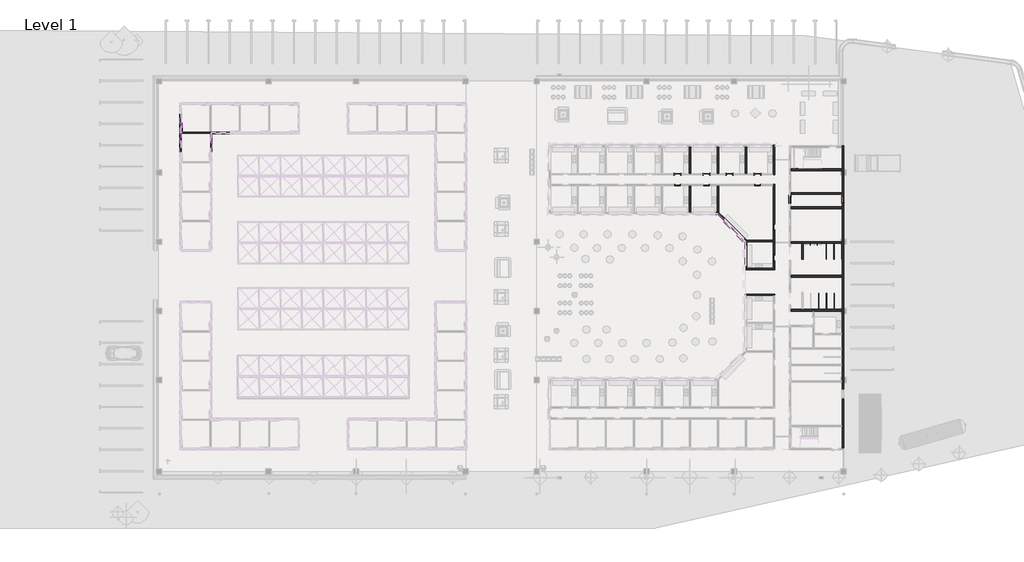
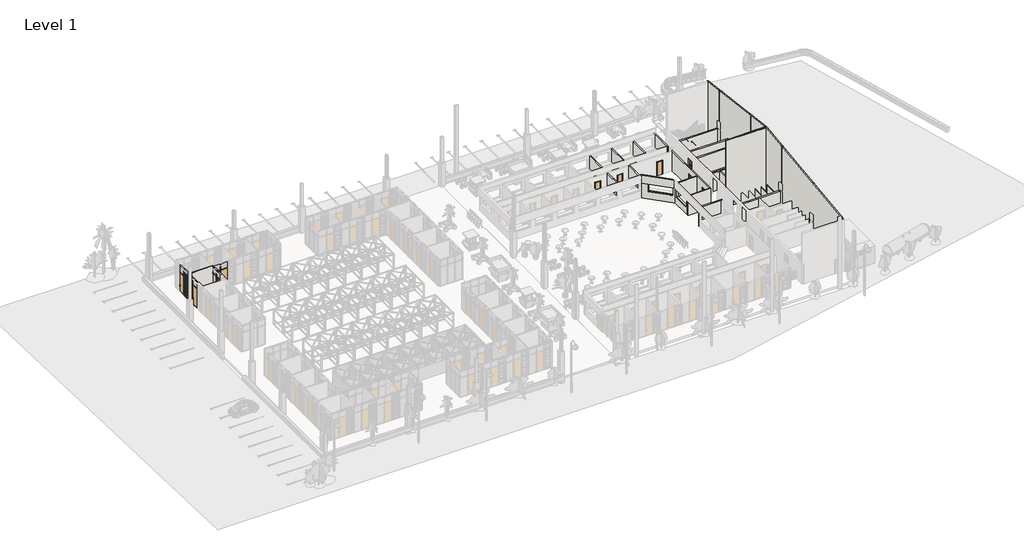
# One storey, part 13 of 32: 30 walls, 28 members, 15 doors, 12 plates.
"""IFC4 building model written with IfcOpenShell, lengths in millimetres."""

from ifc_helpers import new_model, si_unit, frame, origin, place, context, project, spatial, polyline, outline, extrude, faceted_brep, transform, mapped, element, save
from components import curtain_wall_door_single_glass_nz_curtain_wall_door_single_2bf20aac, curtain_wall_door_single_glass_nz_curtain_wall_door_single_ff8afd41, doors_intsgl_1_760x2110mm_a62a0124, doors_intsgl_1_760x2110mm_b66d165a, ext_single_out_aluminum_grooved_nz_860_x_2000_eb449b41, ext_single_out_aluminum_grooved_nz_910_x_2030_b83aaf34, rectangular_mullion_50x150mm_c4504768, rectangular_mullion_50x150mm_6c7cb899, rectangular_mullion_50x150mm_b0af8bb0, rectangular_mullion_50x150mm_bbc1c4ea, rectangular_mullion_50x150mm_1a36453b, rectangular_mullion_50x150mm_ef3a484d, rectangular_mullion_50x150mm_593aaa1e, rectangular_mullion_50x150mm_0d540e17, rectangular_mullion_50x150mm_108cdc6f, rectangular_mullion_50x150mm_06f351d1, rectangular_mullion_50x150mm_d9cea391, curtain_wall_panel_louver_20805_curtain_wall_panel_louver_14332c5b, curtain_wall_panel_glass_louver_20805_curtain_wall_panel_0f8e40a1, system_panel_glazed_2ffedfca, system_panel_glazed_53fe5bbb, system_panel_glazed_ac5b5eb3, system_panel_solid_585523e5, system_panel_solid_9660e4da, system_panel_solid_10c0fb46, system_panel_solid_8be1541b

model = new_model("IFC4")

# Units and contexts
model_context = context("Model", 3, world=origin())
ifc_project = project(units=[si_unit("LENGTHUNIT", "METRE", prefix="MILLI")], contexts=[model_context])

# Site, building, storey
site = spatial("IfcSite", under=ifc_project)
building = spatial("IfcBuilding", under=site)
storey = spatial("IfcBuildingStorey", under=building, Name="Level 1", Elevation=2800.0)

# Doors
placement = place(None, origin())
curtain_wall_door_single_glass_nz_curtain_wall_door_single_shape = curtain_wall_door_single_glass_nz_curtain_wall_door_single_2bf20aac(model_context)
element("IfcDoor", 1, ObjectType="Curtain Wall Door-Single-Glass (NZ) : Curtain Wall Door-Single-Glass (NZ)", at=placement, inside=storey, context=model_context, shape_type="MappedRepresentation", body=[
    mapped(curtain_wall_door_single_glass_nz_curtain_wall_door_single_shape, transform((-83784.8408447, 544.0800404, 2850.0), x_axis=(0.0, -1.0, 0.0), y_axis=(1.0, 0.0, 0.0), z_axis=(0.0, 0.0, 1.0))),
])
curtain_wall_door_single_glass_nz_curtain_wall_door_single_2_shape = curtain_wall_door_single_glass_nz_curtain_wall_door_single_ff8afd41(model_context)
element("IfcDoor", 2, ObjectType="Curtain Wall Door-Single-Glass (NZ) : Curtain Wall Door-Single-Glass (NZ)", at=placement, inside=storey, context=model_context, shape_type="MappedRepresentation", body=[
    mapped(curtain_wall_door_single_glass_nz_curtain_wall_door_single_2_shape, transform((-82160.3408448, 2194.0800404, 2850.0), x_axis=(1.0, 0.0, 0.0), y_axis=(0.0, 1.0, 0.0), z_axis=(0.0, 0.0, 1.0))),
])
element("IfcDoor", 3, ObjectType="Curtain Wall Door-Single-Glass (NZ) : Curtain Wall Door-Single-Glass (NZ)", at=placement, inside=storey, context=model_context, shape_type="MappedRepresentation", body=[
    mapped(curtain_wall_door_single_glass_nz_curtain_wall_door_single_2_shape, transform((-87234.8408447, 544.0800404, 2850.0), x_axis=(0.0, -1.0, 0.0), y_axis=(1.0, 0.0, 0.0), z_axis=(0.0, 0.0, 1.0))),
])
element("IfcDoor", 4, ObjectType="Curtain Wall Door-Single-Glass (NZ) : Curtain Wall Door-Single-Glass (NZ)", at=placement, inside=storey, context=model_context, shape_type="MappedRepresentation", body=[
    mapped(curtain_wall_door_single_glass_nz_curtain_wall_door_single_2_shape, transform((-87234.8408447, 3844.0800404, 2850.0), x_axis=(0.0, -1.0, 0.0), y_axis=(1.0, 0.0, 0.0), z_axis=(0.0, 0.0, 1.0))),
])
doors_intsgl_1_760x2110mm_shape = doors_intsgl_1_760x2110mm_a62a0124(model_context)
element("IfcDoor", 5, ObjectType="Doors_IntSgl_1 : 760x2110mm", at=placement, inside=storey, context=model_context, shape_type="MappedRepresentation", body=[
    mapped(doors_intsgl_1_760x2110mm_shape, transform((-28195.9339353, -2455.9199596, 2800.0), x_axis=(1.0, 0.0, 0.0), y_axis=(0.0, 1.0, 0.0), z_axis=(0.0, 0.0, 1.0))),
])
element("IfcDoor", 6, ObjectType="Doors_IntSgl_1 : 760x2110mm", at=placement, inside=storey, context=model_context, shape_type="MappedRepresentation", body=[
    mapped(doors_intsgl_1_760x2110mm_shape, transform((-22450.9339353, -3655.9199596, 2800.0), x_axis=(-1.0, 0.0, 0.0), y_axis=(0.0, -1.0, 0.0), z_axis=(0.0, 0.0, 1.0))),
])
element("IfcDoor", 7, ObjectType="Doors_IntSgl_1 : 760x2110mm", at=placement, inside=storey, context=model_context, shape_type="MappedRepresentation", body=[
    mapped(doors_intsgl_1_760x2110mm_shape, transform((-31420.9339353, -2455.9199596, 2800.0), x_axis=(1.0, 0.0, 0.0), y_axis=(0.0, 1.0, 0.0), z_axis=(0.0, 0.0, 1.0))),
])
doors_intsgl_1_760x2110mm_2_shape = doors_intsgl_1_760x2110mm_b66d165a(model_context)
element("IfcDoor", 8, ObjectType="Doors_IntSgl_1 : 760x2110mm", at=placement, inside=storey, context=model_context, shape_type="MappedRepresentation", body=[
    mapped(doors_intsgl_1_760x2110mm_2_shape, transform((-25590.9339353, -2455.9199596, 2800.0), x_axis=(-1.0, 0.0, 0.0), y_axis=(0.0, -1.0, 0.0), z_axis=(0.0, 0.0, 1.0))),
])
element("IfcDoor", 9, ObjectType="Doors_IntSgl_1 : 760x2110mm", at=placement, inside=storey, context=model_context, shape_type="MappedRepresentation", body=[
    mapped(doors_intsgl_1_760x2110mm_2_shape, transform((-20585.9339353, -8390.9199596, 2800.0), x_axis=(0.0, -1.0, 0.0), y_axis=(1.0, 0.0, 0.0), z_axis=(0.0, 0.0, 1.0))),
])
element("IfcDoor", 10, ObjectType="Doors_IntSgl_1 : 760x2110mm", at=placement, inside=storey, context=model_context, shape_type="MappedRepresentation", body=[
    mapped(doors_intsgl_1_760x2110mm_2_shape, transform((-28195.9339353, -3655.9199596, 2800.0), x_axis=(1.0, 0.0, 0.0), y_axis=(0.0, 1.0, 0.0), z_axis=(0.0, 0.0, 1.0))),
])
element("IfcDoor", 11, ObjectType="Doors_IntSgl_1 : 760x2110mm", at=placement, inside=storey, context=model_context, shape_type="MappedRepresentation", body=[
    mapped(doors_intsgl_1_760x2110mm_2_shape, transform((-31420.9339353, -3655.9199596, 2800.0), x_axis=(1.0, 0.0, 0.0), y_axis=(0.0, 1.0, 0.0), z_axis=(0.0, 0.0, 1.0))),
])
element("IfcDoor", 12, ObjectType="Doors_IntSgl_1 : 760x2110mm", at=placement, inside=storey, context=model_context, shape_type="MappedRepresentation", body=[
    mapped(doors_intsgl_1_760x2110mm_2_shape, transform((-22440.9339353, -2455.9199596, 2800.0), x_axis=(-1.0, 0.0, 0.0), y_axis=(0.0, -1.0, 0.0), z_axis=(0.0, 0.0, 1.0))),
])
element("IfcDoor", 13, ObjectType="Doors_IntSgl_1 : 760x2110mm", at=placement, inside=storey, context=model_context, shape_type="MappedRepresentation", body=[
    mapped(doors_intsgl_1_760x2110mm_2_shape, transform((-20585.9339353, -11840.9199596, 2800.0), x_axis=(0.0, -1.0, 0.0), y_axis=(1.0, 0.0, 0.0), z_axis=(0.0, 0.0, 1.0))),
])
ext_single_out_aluminum_grooved_nz_860_x_2000_shape = ext_single_out_aluminum_grooved_nz_860_x_2000_eb449b41(model_context)
element("IfcDoor", 14, ObjectType="Ext Single Out-Aluminum-Grooved (NZ) : 860 x 2000", at=placement, inside=storey, context=model_context, shape_type="MappedRepresentation", body=[
    mapped(ext_single_out_aluminum_grooved_nz_860_x_2000_shape, transform((-12860.7705062, -5221.9199596, 2780.0), x_axis=(0.0, 1.0, 0.0), y_axis=(-1.0, 0.0, 0.0), z_axis=(0.0, 0.0, 1.0))),
])
ext_single_out_aluminum_grooved_nz_910_x_2030_shape = ext_single_out_aluminum_grooved_nz_910_x_2030_b83aaf34(model_context)
element("IfcDoor", 15, ObjectType="Ext Single Out-Aluminum-Grooved (NZ) : 910 x 2030", at=placement, inside=storey, context=model_context, shape_type="MappedRepresentation", body=[
    mapped(ext_single_out_aluminum_grooved_nz_910_x_2030_shape, transform((-18810.7705062, -5324.9199596, 2780.0), x_axis=(0.0, -1.0, 0.0), y_axis=(1.0, 0.0, 0.0), z_axis=(0.0, 0.0, 1.0))),
])

# Members
rectangular_mullion_50x150mm_shape = rectangular_mullion_50x150mm_c4504768(model_context)
element("IfcMember", 16, ObjectType="Rectangular Mullion : 50x150mm", at=placement, inside=storey, context=model_context, shape_type="MappedRepresentation", body=[
    mapped(rectangular_mullion_50x150mm_shape, transform((-83784.8408447, 19.0800404, 5800.0), x_axis=(0.0, 0.0, 1.0), y_axis=(-1.0, 0.0, 0.0), z_axis=(0.0, -1.0, 0.0))),
])
rectangular_mullion_50x150mm_2_shape = rectangular_mullion_50x150mm_6c7cb899(model_context)
element("IfcMember", 17, ObjectType="Rectangular Mullion : 50x150mm", at=placement, inside=storey, context=model_context, shape_type="MappedRepresentation", body=[
    mapped(rectangular_mullion_50x150mm_2_shape, transform((-83784.8408447, 1094.0800404, 2800.0), x_axis=(0.0, -1.0, 0.0), y_axis=(-1.0, 0.0, 0.0), z_axis=(0.0, 0.0, -1.0))),
])
rectangular_mullion_50x150mm_3_shape = rectangular_mullion_50x150mm_b0af8bb0(model_context)
element("IfcMember", 18, ObjectType="Rectangular Mullion : 50x150mm", at=placement, inside=storey, context=model_context, shape_type="MappedRepresentation", body=[
    mapped(rectangular_mullion_50x150mm_3_shape, transform((-83784.8408447, 1069.0800404, 2800.0), x_axis=(0.0, 0.0, -1.0), y_axis=(-1.0, 0.0, 0.0), z_axis=(0.0, 1.0, 0.0))),
])
rectangular_mullion_50x150mm_4_shape = rectangular_mullion_50x150mm_bbc1c4ea(model_context)
element("IfcMember", 19, ObjectType="Rectangular Mullion : 50x150mm", at=placement, inside=storey, context=model_context, shape_type="MappedRepresentation", body=[
    mapped(rectangular_mullion_50x150mm_4_shape, transform((-83784.8408447, 1094.0800404, 5800.0), x_axis=(0.0, -1.0, 0.0), y_axis=(-1.0, 0.0, 0.0), z_axis=(0.0, 0.0, -1.0))),
])
rectangular_mullion_50x150mm_5_shape = rectangular_mullion_50x150mm_1a36453b(model_context)
element("IfcMember", 20, ObjectType="Rectangular Mullion : 50x150mm", at=placement, inside=storey, context=model_context, shape_type="MappedRepresentation", body=[
    mapped(rectangular_mullion_50x150mm_5_shape, transform((-83784.8408447, 19.0800404, 6800.0), x_axis=(0.0, 0.0, 1.0), y_axis=(-1.0, 0.0, 0.0), z_axis=(0.0, -1.0, 0.0))),
])
rectangular_mullion_50x150mm_6_shape = rectangular_mullion_50x150mm_ef3a484d(model_context)
element("IfcMember", 21, ObjectType="Rectangular Mullion : 50x150mm", at=placement, inside=storey, context=model_context, shape_type="MappedRepresentation", body=[
    mapped(rectangular_mullion_50x150mm_6_shape, transform((-83784.8408447, 1119.0800404, 5800.0), x_axis=(0.0, 0.0, 1.0), y_axis=(-1.0, 0.0, 0.0), z_axis=(0.0, -1.0, 0.0))),
])
rectangular_mullion_50x150mm_7_shape = rectangular_mullion_50x150mm_593aaa1e(model_context)
element("IfcMember", 22, ObjectType="Rectangular Mullion : 50x150mm", at=placement, inside=storey, context=model_context, shape_type="MappedRepresentation", body=[
    mapped(rectangular_mullion_50x150mm_7_shape, transform((-83784.8408447, 2194.0800404, 2800.0), x_axis=(0.0, 0.0, -1.0), y_axis=(-1.0, 0.0, 0.0), z_axis=(0.0, 1.0, 0.0))),
])
element("IfcMember", 23, ObjectType="Rectangular Mullion : 50x150mm", at=placement, inside=storey, context=model_context, shape_type="MappedRepresentation", body=[
    mapped(rectangular_mullion_50x150mm_7_shape, transform((-83784.8408447, 1119.0800404, 6800.0), x_axis=(0.0, 0.0, 1.0), y_axis=(-1.0, 0.0, 0.0), z_axis=(0.0, -1.0, 0.0))),
])
element("IfcMember", 24, ObjectType="Rectangular Mullion : 50x150mm", at=placement, inside=storey, context=model_context, shape_type="MappedRepresentation", body=[
    mapped(rectangular_mullion_50x150mm_4_shape, transform((-87234.8408447, 1094.0800404, 5800.0), x_axis=(0.0, -1.0, 0.0), y_axis=(-1.0, 0.0, 0.0), z_axis=(0.0, 0.0, -1.0))),
])
element("IfcMember", 25, ObjectType="Rectangular Mullion : 50x150mm", at=placement, inside=storey, context=model_context, shape_type="MappedRepresentation", body=[
    mapped(rectangular_mullion_50x150mm_2_shape, transform((-87234.8408447, 1094.0800404, 2800.0), x_axis=(0.0, -1.0, 0.0), y_axis=(-1.0, 0.0, 0.0), z_axis=(0.0, 0.0, -1.0))),
])
rectangular_mullion_50x150mm_8_shape = rectangular_mullion_50x150mm_0d540e17(model_context)
element("IfcMember", 26, ObjectType="Rectangular Mullion : 50x150mm", at=placement, inside=storey, context=model_context, shape_type="MappedRepresentation", body=[
    mapped(rectangular_mullion_50x150mm_8_shape, transform((-87234.8408447, 19.0800404, 5800.0), x_axis=(0.0, 0.0, 1.0), y_axis=(-1.0, 0.0, 0.0), z_axis=(0.0, -1.0, 0.0))),
])
rectangular_mullion_50x150mm_9_shape = rectangular_mullion_50x150mm_108cdc6f(model_context)
element("IfcMember", 27, ObjectType="Rectangular Mullion : 50x150mm", at=placement, inside=storey, context=model_context, shape_type="MappedRepresentation", body=[
    mapped(rectangular_mullion_50x150mm_9_shape, transform((-82685.3408448, 2194.0800404, 2800.0), x_axis=(0.0, 0.0, -1.0), y_axis=(0.0, -1.0, 0.0), z_axis=(-1.0, 0.0, 0.0))),
])
element("IfcMember", 28, ObjectType="Rectangular Mullion : 50x150mm", at=placement, inside=storey, context=model_context, shape_type="MappedRepresentation", body=[
    mapped(rectangular_mullion_50x150mm_9_shape, transform((-87234.8408447, 1069.0800404, 2800.0), x_axis=(0.0, 0.0, -1.0), y_axis=(-1.0, 0.0, 0.0), z_axis=(0.0, 1.0, 0.0))),
])
element("IfcMember", 29, ObjectType="Rectangular Mullion : 50x150mm", at=placement, inside=storey, context=model_context, shape_type="MappedRepresentation", body=[
    mapped(rectangular_mullion_50x150mm_5_shape, transform((-87234.8408447, 19.0800404, 6800.0), x_axis=(0.0, 0.0, 1.0), y_axis=(-1.0, 0.0, 0.0), z_axis=(0.0, -1.0, 0.0))),
])
element("IfcMember", 30, ObjectType="Rectangular Mullion : 50x150mm", at=placement, inside=storey, context=model_context, shape_type="MappedRepresentation", body=[
    mapped(rectangular_mullion_50x150mm_5_shape, transform((-87234.8408447, 1119.0800404, 6800.0), x_axis=(0.0, 0.0, 1.0), y_axis=(-1.0, 0.0, 0.0), z_axis=(0.0, -1.0, 0.0))),
])
element("IfcMember", 31, ObjectType="Rectangular Mullion : 50x150mm", at=placement, inside=storey, context=model_context, shape_type="MappedRepresentation", body=[
    mapped(rectangular_mullion_50x150mm_9_shape, transform((-87234.8408447, 3269.0800404, 2800.0), x_axis=(0.0, 0.0, -1.0), y_axis=(-1.0, 0.0, 0.0), z_axis=(0.0, 1.0, 0.0))),
])
element("IfcMember", 32, ObjectType="Rectangular Mullion : 50x150mm", at=placement, inside=storey, context=model_context, shape_type="MappedRepresentation", body=[
    mapped(rectangular_mullion_50x150mm_9_shape, transform((-87234.8408447, 2169.0800404, 2800.0), x_axis=(0.0, 0.0, -1.0), y_axis=(-1.0, 0.0, 0.0), z_axis=(0.0, 1.0, 0.0))),
])
element("IfcMember", 33, ObjectType="Rectangular Mullion : 50x150mm", at=placement, inside=storey, context=model_context, shape_type="MappedRepresentation", body=[
    mapped(rectangular_mullion_50x150mm_5_shape, transform((-87234.8408447, 3319.0800404, 6800.0), x_axis=(0.0, 0.0, 1.0), y_axis=(-1.0, 0.0, 0.0), z_axis=(0.0, -1.0, 0.0))),
])
element("IfcMember", 34, ObjectType="Rectangular Mullion : 50x150mm", at=placement, inside=storey, context=model_context, shape_type="MappedRepresentation", body=[
    mapped(rectangular_mullion_50x150mm_5_shape, transform((-87234.8408447, 2219.0800404, 6800.0), x_axis=(0.0, 0.0, 1.0), y_axis=(-1.0, 0.0, 0.0), z_axis=(0.0, -1.0, 0.0))),
])
rectangular_mullion_50x150mm_10_shape = rectangular_mullion_50x150mm_06f351d1(model_context)
element("IfcMember", 35, ObjectType="Rectangular Mullion : 50x150mm", at=placement, inside=storey, context=model_context, shape_type="MappedRepresentation", body=[
    mapped(rectangular_mullion_50x150mm_10_shape, transform((-82735.3408448, 2194.0800404, 5800.0), x_axis=(0.0, 0.0, 1.0), y_axis=(0.0, -1.0, 0.0), z_axis=(1.0, 0.0, 0.0))),
])
rectangular_mullion_50x150mm_11_shape = rectangular_mullion_50x150mm_d9cea391(model_context)
element("IfcMember", 36, ObjectType="Rectangular Mullion : 50x150mm", at=placement, inside=storey, context=model_context, shape_type="MappedRepresentation", body=[
    mapped(rectangular_mullion_50x150mm_11_shape, transform((-83797.3408447, 2194.0800404, 2800.0), x_axis=(0.0, 0.0, -1.0), y_axis=(0.0, -1.0, 0.0), z_axis=(-1.0, 0.0, 0.0))),
])
element("IfcMember", 37, ObjectType="Rectangular Mullion : 50x150mm", at=placement, inside=storey, context=model_context, shape_type="MappedRepresentation", body=[
    mapped(rectangular_mullion_50x150mm_4_shape, transform((-87234.8408447, 2194.0800404, 5800.0), x_axis=(0.0, -1.0, 0.0), y_axis=(-1.0, 0.0, 0.0), z_axis=(0.0, 0.0, -1.0))),
])
element("IfcMember", 38, ObjectType="Rectangular Mullion : 50x150mm", at=placement, inside=storey, context=model_context, shape_type="MappedRepresentation", body=[
    mapped(rectangular_mullion_50x150mm_4_shape, transform((-87234.8408447, 3294.0800404, 5800.0), x_axis=(0.0, -1.0, 0.0), y_axis=(-1.0, 0.0, 0.0), z_axis=(0.0, 0.0, -1.0))),
])
element("IfcMember", 39, ObjectType="Rectangular Mullion : 50x150mm", at=placement, inside=storey, context=model_context, shape_type="MappedRepresentation", body=[
    mapped(rectangular_mullion_50x150mm_2_shape, transform((-87234.8408447, 2194.0800404, 2800.0), x_axis=(0.0, -1.0, 0.0), y_axis=(-1.0, 0.0, 0.0), z_axis=(0.0, 0.0, -1.0))),
])
element("IfcMember", 40, ObjectType="Rectangular Mullion : 50x150mm", at=placement, inside=storey, context=model_context, shape_type="MappedRepresentation", body=[
    mapped(rectangular_mullion_50x150mm_2_shape, transform((-87234.8408447, 3294.0800404, 2800.0), x_axis=(0.0, -1.0, 0.0), y_axis=(-1.0, 0.0, 0.0), z_axis=(0.0, 0.0, -1.0))),
])
element("IfcMember", 41, ObjectType="Rectangular Mullion : 50x150mm", at=placement, inside=storey, context=model_context, shape_type="MappedRepresentation", body=[
    mapped(rectangular_mullion_50x150mm_8_shape, transform((-87234.8408447, 3319.0800404, 5800.0), x_axis=(0.0, 0.0, 1.0), y_axis=(-1.0, 0.0, 0.0), z_axis=(0.0, -1.0, 0.0))),
])
element("IfcMember", 42, ObjectType="Rectangular Mullion : 50x150mm", at=placement, inside=storey, context=model_context, shape_type="MappedRepresentation", body=[
    mapped(rectangular_mullion_50x150mm_8_shape, transform((-87234.8408447, 2219.0800404, 5800.0), x_axis=(0.0, 0.0, 1.0), y_axis=(-1.0, 0.0, 0.0), z_axis=(0.0, -1.0, 0.0))),
])
element("IfcMember", 43, ObjectType="Rectangular Mullion : 50x150mm", at=placement, inside=storey, context=model_context, shape_type="MappedRepresentation", body=[
    mapped(rectangular_mullion_50x150mm_8_shape, transform((-87234.8408447, 1119.0800404, 5800.0), x_axis=(0.0, 0.0, 1.0), y_axis=(-1.0, 0.0, 0.0), z_axis=(0.0, -1.0, 0.0))),
])

# Plates
curtain_wall_panel_louver_20805_curtain_wall_panel_louver_shape = curtain_wall_panel_louver_20805_curtain_wall_panel_louver_14332c5b(model_context)
element("IfcPlate", 44, ObjectType="Curtain_wall_panel_-_Louver_20805 : Curtain_wall_panel_-_Louver_20805", at=placement, inside=storey, context=model_context, shape_type="MappedRepresentation", body=[
    mapped(curtain_wall_panel_louver_20805_curtain_wall_panel_louver_shape, transform((-87234.8408447, 2744.0800404, 5825.0), x_axis=(0.0, -1.0, 0.0), y_axis=(1.0, 0.0, 0.0), z_axis=(0.0, 0.0, 1.0))),
])
curtain_wall_panel_glass_louver_20805_curtain_wall_panel_shape = curtain_wall_panel_glass_louver_20805_curtain_wall_panel_0f8e40a1(model_context)
element("IfcPlate", 45, ObjectType="Curtain_wall_panel_glass_Louver_20805 : Curtain_wall_panel_glass_Louver_20805", at=placement, inside=storey, context=model_context, shape_type="MappedRepresentation", body=[
    mapped(curtain_wall_panel_glass_louver_20805_curtain_wall_panel_shape, transform((-87234.8408447, 2744.0800404, 2850.0), x_axis=(0.0, -1.0, 0.0), y_axis=(1.0, 0.0, 0.0), z_axis=(0.0, 0.0, 1.0))),
])
system_panel_glazed_shape = system_panel_glazed_2ffedfca(model_context)
element("IfcPlate", 46, ObjectType="System Panel : Glazed", at=placement, inside=storey, context=model_context, shape_type="MappedRepresentation", body=[
    mapped(system_panel_glazed_shape, transform((-83784.8408447, 1656.5800404, 2850.0), x_axis=(0.0, -1.0, 0.0), y_axis=(1.0, 0.0, 0.0), z_axis=(0.0, 0.0, 1.0))),
])
system_panel_glazed_2_shape = system_panel_glazed_53fe5bbb(model_context)
element("IfcPlate", 47, ObjectType="System Panel : Glazed", at=placement, inside=storey, context=model_context, shape_type="MappedRepresentation", body=[
    mapped(system_panel_glazed_2_shape, transform((-87234.8408447, 1644.0800404, 2850.0), x_axis=(0.0, -1.0, 0.0), y_axis=(1.0, 0.0, 0.0), z_axis=(0.0, 0.0, 1.0))),
])
system_panel_glazed_3_shape = system_panel_glazed_ac5b5eb3(model_context)
element("IfcPlate", 48, ObjectType="System Panel : Glazed", at=placement, inside=storey, context=model_context, shape_type="MappedRepresentation", body=[
    mapped(system_panel_glazed_3_shape, transform((-83266.3408448, 2194.0800404, 2850.0), x_axis=(1.0, 0.0, 0.0), y_axis=(0.0, 1.0, 0.0), z_axis=(0.0, 0.0, 1.0))),
])
system_panel_solid_shape = system_panel_solid_585523e5(model_context)
element("IfcPlate", 49, ObjectType="System Panel : Solid", at=placement, inside=storey, context=model_context, shape_type="MappedRepresentation", body=[
    mapped(system_panel_solid_shape, transform((-83784.8408447, 544.0800404, 5825.0), x_axis=(0.0, -1.0, 0.0), y_axis=(1.0, 0.0, 0.0), z_axis=(0.0, 0.0, 1.0))),
])
system_panel_solid_2_shape = system_panel_solid_9660e4da(model_context)
element("IfcPlate", 50, ObjectType="System Panel : Solid", at=placement, inside=storey, context=model_context, shape_type="MappedRepresentation", body=[
    mapped(system_panel_solid_2_shape, transform((-83784.8408447, 1656.5800404, 5825.0), x_axis=(0.0, -1.0, 0.0), y_axis=(1.0, 0.0, 0.0), z_axis=(0.0, 0.0, 1.0))),
])
system_panel_solid_3_shape = system_panel_solid_10c0fb46(model_context)
element("IfcPlate", 51, ObjectType="System Panel : Solid", at=placement, inside=storey, context=model_context, shape_type="MappedRepresentation", body=[
    mapped(system_panel_solid_3_shape, transform((-82160.3408448, 2194.0800404, 5825.0), x_axis=(1.0, 0.0, 0.0), y_axis=(0.0, 1.0, 0.0), z_axis=(0.0, 0.0, 1.0))),
])
element("IfcPlate", 52, ObjectType="System Panel : Solid", at=placement, inside=storey, context=model_context, shape_type="MappedRepresentation", body=[
    mapped(system_panel_solid_3_shape, transform((-87234.8408447, 544.0800404, 5825.0), x_axis=(0.0, -1.0, 0.0), y_axis=(1.0, 0.0, 0.0), z_axis=(0.0, 0.0, 1.0))),
])
element("IfcPlate", 53, ObjectType="System Panel : Solid", at=placement, inside=storey, context=model_context, shape_type="MappedRepresentation", body=[
    mapped(system_panel_solid_3_shape, transform((-87234.8408447, 3844.0800404, 5825.0), x_axis=(0.0, -1.0, 0.0), y_axis=(1.0, 0.0, 0.0), z_axis=(0.0, 0.0, 1.0))),
])
element("IfcPlate", 54, ObjectType="System Panel : Solid", at=placement, inside=storey, context=model_context, shape_type="MappedRepresentation", body=[
    mapped(system_panel_solid_3_shape, transform((-87234.8408447, 1644.0800404, 5825.0), x_axis=(0.0, -1.0, 0.0), y_axis=(1.0, 0.0, 0.0), z_axis=(0.0, 0.0, 1.0))),
])
system_panel_solid_4_shape = system_panel_solid_8be1541b(model_context)
element("IfcPlate", 55, ObjectType="System Panel : Solid", at=placement, inside=storey, context=model_context, shape_type="MappedRepresentation", body=[
    mapped(system_panel_solid_4_shape, transform((-83266.3408448, 2194.0800404, 5825.0), x_axis=(1.0, 0.0, 0.0), y_axis=(0.0, 1.0, 0.0), z_axis=(0.0, 0.0, 1.0))),
])

# Walls
element("IfcWall", 56, ObjectType="150cmu", at=placement, inside=storey, context=model_context, shape_type="Brep", body=[
    faceted_brep([(-20660.9339353, 794.0800404, 2800.0), (-20660.9339353, 594.0800404, 2800.0), (-20660.9339353, -2380.9199596, 2800.0), (-20660.9339353, -2530.9199596, 2800.0), (-20660.9339353, -2530.9199596, 5800.0), (-20660.9339353, -2380.9199596, 5800.0), (-20660.9339353, 594.0800404, 5800.0), (-20660.9339353, 794.0800404, 5800.0), (-20510.9339353, 794.0800404, 2800.0), (-20510.9339353, 794.0800404, 5800.0), (-20510.9339353, -2530.9199596, 5800.0), (-20510.9339353, -2530.9199596, 2800.0)], [[[0, 1, 2, 3, 4, 5, 6, 7]], [[8, 9, 10, 11]], [[3, 2, 1, 0, 8, 11]], [[7, 6, 5, 4, 10, 9]], [[4, 3, 11, 10]], [[0, 7, 9, 8]]]),
])
element("IfcWall", 57, ObjectType="150cmu", at=placement, inside=storey, context=model_context, shape_type="SweptSolid", body=[
    extrude(outline(polyline([(-23660.9339353, 594.0800404), (-23660.9339353, -2380.9199596), (-23810.9339353, -2380.9199596), (-23810.9339353, 594.0800404), (-23660.9339353, 594.0800404)])), frame((0.0, 0.0, 2800.0), z_axis=(0.0, 0.0, 1.0), x_axis=(1.0, 0.0, 0.0)), (0.0, 0.0, 1.0), 3000.0),
])
element("IfcWall", 58, ObjectType="150cmu", at=placement, inside=storey, context=model_context, shape_type="SweptSolid", body=[
    extrude(outline(polyline([(-26960.9339353, -2380.9199596), (-26960.9339353, 594.0800404), (-26810.9339353, 594.0800404), (-26810.9339353, -2380.9199596), (-26960.9339353, -2380.9199596)])), frame((0.0, 0.0, 2800.0), z_axis=(0.0, 0.0, 1.0), x_axis=(1.0, 0.0, 0.0)), (0.0, 0.0, 1.0), 3000.0),
])
element("IfcWall", 59, ObjectType="150cmu", at=placement, inside=storey, context=model_context, shape_type="SweptSolid", body=[
    extrude(outline(polyline([(-30110.9339353, -2380.9199596), (-30110.9339353, 594.0800404), (-29960.9339353, 594.0800404), (-29960.9339353, -2380.9199596), (-30110.9339353, -2380.9199596)])), frame((0.0, 0.0, 2800.0), z_axis=(0.0, 0.0, 1.0), x_axis=(1.0, 0.0, 0.0)), (0.0, 0.0, 1.0), 3000.0),
])
element("IfcWall", 60, ObjectType="150cmu", at=placement, inside=storey, context=model_context, shape_type="Brep", body=[
    faceted_brep([(-20510.9339353, -3580.9199596, 5800.0), (-20510.9339353, -13030.9199596, 5800.0), (-20510.9339353, -13030.9199596, 2800.0), (-20510.9339353, -12200.9199596, 2800.0), (-20510.9339353, -12200.9199596, 4910.0), (-20510.9339353, -11480.9199596, 4910.0), (-20510.9339353, -11480.9199596, 2800.0), (-20510.9339353, -8750.9199596, 2800.0), (-20510.9339353, -8750.9199596, 4910.0), (-20510.9339353, -8030.9199596, 4910.0), (-20510.9339353, -8030.9199596, 2800.0), (-20510.9339353, -3580.9199596, 2800.0), (-20660.9339353, -13030.9199596, 5800.0), (-20660.9339353, -10030.9199596, 5800.0), (-20660.9339353, -9880.9199596, 5800.0), (-20660.9339353, -3730.9199596, 5800.0), (-20660.9339353, -3580.9199596, 5800.0), (-20660.9339353, -3580.9199596, 2800.0), (-20660.9339353, -3730.9199596, 2800.0), (-20660.9339353, -8030.9199596, 2800.0), (-20660.9339353, -8030.9199596, 4910.0), (-20660.9339353, -8750.9199596, 4910.0), (-20660.9339353, -8750.9199596, 2800.0), (-20660.9339353, -9880.9199596, 2800.0), (-20660.9339353, -10030.9199596, 2800.0), (-20660.9339353, -11480.9199596, 2800.0), (-20660.9339353, -11480.9199596, 4910.0), (-20660.9339353, -12200.9199596, 4910.0), (-20660.9339353, -12200.9199596, 2800.0), (-20660.9339353, -13030.9199596, 2800.0)], [[[0, 1, 2, 3, 4, 5, 6, 7, 8, 9, 10, 11]], [[12, 13, 14, 15, 16, 17, 18, 19, 20, 21, 22, 23, 24, 25, 26, 27, 28, 29]], [[22, 7, 6, 25, 24, 23]], [[10, 19, 18, 17, 11]], [[2, 29, 28, 3]], [[1, 0, 16, 15, 14, 13, 12]], [[8, 7, 22, 21]], [[9, 8, 21, 20]], [[10, 9, 20, 19]], [[0, 11, 17, 16]], [[2, 1, 12, 29]], [[27, 4, 3, 28]], [[4, 27, 26, 5]], [[5, 26, 25, 6]]]),
])
element("IfcWall", 61, ObjectType="150cmu", at=placement, inside=storey, context=model_context, shape_type="SweptSolid", body=[
    extrude(outline(polyline([(-23669.512579, -9880.9199596), (-20660.9339353, -9880.9199596), (-20660.9339353, -10030.9199596), (-23635.9339353, -10030.9199596), (-23635.9339353, -9914.4986034), (-23669.512579, -9880.9199596)])), frame((0.0, 0.0, 2800.0), z_axis=(0.0, 0.0, 1.0), x_axis=(1.0, 0.0, 0.0)), (0.0, 0.0, 1.0), 3000.0),
])
element("IfcWall", 62, ObjectType="150cmu", at=placement, inside=storey, context=model_context, shape_type="SweptSolid", body=[
    extrude(outline(polyline([(-29960.9339353, -3730.9199596), (-29960.9339353, -6705.9199596), (-30110.9339353, -6705.9199596), (-30110.9339353, -3730.9199596), (-29960.9339353, -3730.9199596)])), frame((0.0, 0.0, 2800.0), z_axis=(0.0, 0.0, 1.0), x_axis=(1.0, 0.0, 0.0)), (0.0, 0.0, 1.0), 3000.0),
])
element("IfcWall", 63, ObjectType="150cmu", at=placement, inside=storey, context=model_context, shape_type="SweptSolid", body=[
    extrude(outline(polyline([(-26810.9339353, -3730.9199596), (-26810.9339353, -6739.4986034), (-26844.512579, -6705.9199596), (-26960.9339353, -6705.9199596), (-26960.9339353, -3730.9199596), (-26810.9339353, -3730.9199596)])), frame((0.0, 0.0, 2800.0), z_axis=(0.0, 0.0, 1.0), x_axis=(1.0, 0.0, 0.0)), (0.0, 0.0, 1.0), 3000.0),
])
element("IfcWall", 64, ObjectType="150cmu", at=placement, inside=storey, context=model_context, shape_type="Brep", body=[
    faceted_brep([(-20510.9339353, -15905.9199596, 2800.0), (-23835.9339353, -15905.9199596, 2800.0), (-23835.9339353, -15905.9199596, 5800.0), (-20510.9339353, -15905.9199596, 5800.0), (-20510.9339353, -16055.9199596, 2800.0), (-20510.9339353, -16055.9199596, 5800.0), (-20660.9339353, -16055.9199596, 5800.0), (-23635.9339353, -16055.9199596, 5800.0), (-23835.9339353, -16055.9199596, 5800.0), (-23835.9339353, -16055.9199596, 2800.0), (-23635.9339353, -16055.9199596, 2800.0), (-20660.9339353, -16055.9199596, 2800.0)], [[[0, 1, 2, 3]], [[4, 5, 6, 7, 8, 9, 10, 11]], [[1, 0, 4, 11, 10, 9]], [[3, 2, 8, 7, 6, 5]], [[0, 3, 5, 4]], [[2, 1, 9, 8]]]),
])
element("IfcWall", 65, ObjectType="150cmu", at=placement, inside=storey, context=model_context, shape_type="Brep", body=[
    faceted_brep([(-20510.9339353, -13030.9199596, 2800.0), (-20660.9339353, -13030.9199596, 2800.0), (-23635.9339353, -13030.9199596, 2800.0), (-23835.9339353, -13030.9199596, 2800.0), (-23835.9339353, -13030.9199596, 5800.0), (-23635.9339353, -13030.9199596, 5800.0), (-20660.9339353, -13030.9199596, 5800.0), (-20510.9339353, -13030.9199596, 5800.0), (-20510.9339353, -13180.9199596, 2800.0), (-20510.9339353, -13180.9199596, 5800.0), (-23835.9339353, -13180.9199596, 5800.0), (-23835.9339353, -13180.9199596, 2800.0)], [[[0, 1, 2, 3, 4, 5, 6, 7]], [[8, 9, 10, 11]], [[3, 2, 1, 0, 8, 11]], [[7, 6, 5, 4, 10, 9]], [[0, 7, 9, 8]], [[4, 3, 11, 10]]]),
])
element("IfcWall", 66, ObjectType="200cmu", at=placement, inside=storey, context=model_context, shape_type="Brep", body=[
    faceted_brep([(-12960.7705062, -33205.9199596, 2800.0), (-12960.7705062, -33205.9199596, 10619.2398583), (-12960.7705062, -14005.9199596, 12976.7034277), (-12960.7705062, -13905.9199596, 12988.9818838), (-12960.7705062, -13805.9199596, 12976.7034277), (-12960.7705062, 544.0800404, 11214.7449787), (-12960.7705062, 744.0800404, 11190.1880665), (-12960.7705062, 744.0800404, 2800.0), (-12960.7705062, 544.0800404, 2800.0), (-12960.7705062, -1856.3199596, 2800.0), (-12960.7705062, -2056.3199596, 2800.0), (-12960.7705062, -2565.9199596, 2800.0), (-12960.7705062, -4505.9199596, 2800.0), (-12960.7705062, -4705.9199596, 2800.0), (-12960.7705062, -4856.9199596, 2800.0), (-12960.7705062, -4856.9199596, 4800.0), (-12960.7705062, -5716.9199596, 4800.0), (-12960.7705062, -5716.9199596, 2800.0), (-12960.7705062, -6105.9199596, 2800.0), (-12960.7705062, -6305.9199596, 2800.0), (-12960.7705062, -9725.9199596, 2800.0), (-12960.7705062, -10005.9199596, 2800.0), (-12960.7705062, -10205.9199596, 2800.0), (-12960.7705062, -10325.9199596, 2800.0), (-12960.7705062, -13805.9199596, 2800.0), (-12960.7705062, -14005.9199596, 2800.0), (-12960.7705062, -17485.9199596, 2800.0), (-12960.7705062, -17605.9199596, 2800.0), (-12960.7705062, -17805.9199596, 2800.0), (-12960.7705062, -18085.9199596, 2800.0), (-12960.7705062, -20305.9199596, 2800.0), (-12960.7705062, -20455.9199596, 2800.0), (-12960.7705062, -21955.5199596, 2800.0), (-12960.7705062, -22105.5199596, 2800.0), (-12960.7705062, -23805.5199596, 2800.0), (-12960.7705062, -23955.5199596, 2800.0), (-12960.7705062, -25245.9199596, 2800.0), (-12960.7705062, -25655.5199596, 2800.0), (-12960.7705062, -25805.5199596, 2800.0), (-12960.7705062, -25845.9199596, 2800.0), (-12960.7705062, -26629.5199596, 2800.0), (-12960.7705062, -26629.5199596, 4856.0), (-12960.7705062, -27591.5199596, 4856.0), (-12960.7705062, -27591.5199596, 2800.0), (-12960.7705062, -30615.7565305, 2800.0), (-12960.7705062, -30815.7565305, 2800.0), (-12760.7705062, 744.0800404, 6800.0), (-12760.7705062, -1965.9199596, 6800.0), (-12760.7705062, -2565.9199596, 6800.0), (-12760.7705062, -9725.9199596, 6800.0), (-12760.7705062, -10325.9199596, 6800.0), (-12760.7705062, -17485.9199596, 6800.0), (-12760.7705062, -18085.9199596, 6800.0), (-12760.7705062, -25245.9199596, 6800.0), (-12760.7705062, -25845.9199596, 6800.0), (-12760.7705062, -33205.9199596, 6800.0), (-12760.7705062, -33205.9199596, 2800.0), (-12760.7705062, -27591.5199596, 2800.0), (-12760.7705062, -27591.5199596, 4856.0), (-12760.7705062, -26629.5199596, 4856.0), (-12760.7705062, -26629.5199596, 2800.0), (-12760.7705062, -25845.9199596, 2800.0), (-12760.7705062, -25245.9199596, 2800.0), (-12760.7705062, -18085.9199596, 2800.0), (-12760.7705062, -17485.9199596, 2800.0), (-12760.7705062, -10325.9199596, 2800.0), (-12760.7705062, -9725.9199596, 2800.0), (-12760.7705062, -5716.9199596, 2800.0), (-12760.7705062, -5716.9199596, 4800.0), (-12760.7705062, -4856.9199596, 4800.0), (-12760.7705062, -4856.9199596, 2800.0), (-12760.7705062, -2565.9199596, 2800.0), (-12760.7705062, -1965.9199596, 2800.0), (-12760.7705062, 744.0800404, 2800.0), (-12800.7705062, -33205.9199596, 6800.0), (-12800.7705062, -33205.9199596, 10619.2398583), (-12800.7705062, 744.0800404, 11190.1880665), (-12800.7705062, 744.0800404, 6800.0), (-12800.7705062, -13905.9199596, 12988.9818838)], [[[0, 1, 2, 3, 4, 5, 6, 7, 8, 9, 10, 11, 12, 13, 14, 15, 16, 17, 18, 19, 20, 21, 22, 23, 24, 25, 26, 27, 28, 29, 30, 31, 32, 33, 34, 35, 36, 37, 38, 39, 40, 41, 42, 43, 44, 45]], [[46, 47, 48, 49, 50, 51, 52, 53, 54, 55, 56, 57, 58, 59, 60, 61, 62, 63, 64, 65, 66, 67, 68, 69, 70, 71, 72, 73]], [[56, 0, 45, 44, 43, 57]], [[7, 73, 72, 71, 70, 14, 13, 12, 11, 10, 9, 8]], [[17, 67, 66, 65, 64, 63, 62, 61, 60, 40, 39, 38, 37, 36, 35, 34, 33, 32, 31, 30, 29, 28, 27, 26, 25, 24, 23, 22, 21, 20, 19, 18]], [[1, 0, 56, 55, 74, 75]], [[7, 6, 76, 77, 46, 73]], [[55, 54, 53, 52, 51, 50, 49, 48, 47, 46, 77, 74]], [[74, 77, 76, 78, 75]], [[76, 6, 5, 4, 3, 78]], [[1, 75, 78, 3, 2]], [[17, 16, 68, 67]], [[16, 15, 69, 68]], [[15, 14, 70, 69]], [[59, 41, 40, 60]], [[41, 59, 58, 42]], [[42, 58, 57, 43]]]),
])
element("IfcWall", 67, ObjectType="200cmu", at=placement, inside=storey, context=model_context, shape_type="Brep", body=[
    faceted_brep([(-12960.7705062, -17605.9199596, 2800.0), (-13100.7705062, -17605.9199596, 2800.0), (-17360.7705062, -17605.9199596, 2800.0), (-17510.7705062, -17605.9199596, 2800.0), (-18710.7705062, -17605.9199596, 2800.0), (-18710.7705062, -17605.9199596, 5589.0), (-17510.7705062, -17605.9199596, 5589.0), (-17360.7705062, -17605.9199596, 5589.0), (-13100.7705062, -17605.9199596, 5589.0), (-12960.7705062, -17605.9199596, 5589.0), (-12960.7705062, -17805.9199596, 2800.0), (-12960.7705062, -17805.9199596, 5589.0), (-13100.7705062, -17805.9199596, 5589.0), (-16075.9339353, -17805.9199596, 5589.0), (-16275.9339353, -17805.9199596, 5589.0), (-18710.7705062, -17805.9199596, 5589.0), (-18710.7705062, -17805.9199596, 2800.0), (-16275.9339353, -17805.9199596, 2800.0), (-16075.9339353, -17805.9199596, 2800.0), (-13100.7705062, -17805.9199596, 2800.0)], [[[0, 1, 2, 3, 4, 5, 6, 7, 8, 9]], [[10, 11, 12, 13, 14, 15, 16, 17, 18, 19]], [[4, 3, 2, 1, 0, 10, 19, 18, 17, 16]], [[5, 4, 16, 15]], [[0, 9, 11, 10]], [[9, 8, 7, 6, 5, 15, 14, 13, 12, 11]]]),
])
element("IfcWall", 68, ObjectType="200cmu", at=placement, inside=storey, context=model_context, shape_type="Brep", body=[
    faceted_brep([(-12960.7705062, -10005.9199596, 2800.0), (-13100.7705062, -10005.9199596, 2800.0), (-18710.7705062, -10005.9199596, 2800.0), (-18710.7705062, -10005.9199596, 5589.0), (-13100.7705062, -10005.9199596, 5589.0), (-12960.7705062, -10005.9199596, 5589.0), (-12960.7705062, -10205.9199596, 2800.0), (-12960.7705062, -10205.9199596, 5589.0), (-13100.7705062, -10205.9199596, 5589.0), (-17310.9339353, -10205.9199596, 5589.0), (-17510.9339353, -10205.9199596, 5589.0), (-18710.7705062, -10205.9199596, 5589.0), (-18710.7705062, -10205.9199596, 2800.0), (-17510.9339353, -10205.9199596, 2800.0), (-17310.9339353, -10205.9199596, 2800.0), (-13100.7705062, -10205.9199596, 2800.0)], [[[0, 1, 2, 3, 4, 5]], [[6, 7, 8, 9, 10, 11, 12, 13, 14, 15]], [[2, 1, 0, 6, 15, 14, 13, 12]], [[3, 2, 12, 11]], [[0, 5, 7, 6]], [[5, 4, 3, 11, 10, 9, 8, 7]]]),
])
element("IfcWall", 69, ObjectType="200cmu", at=placement, inside=storey, context=model_context, shape_type="Brep", body=[
    faceted_brep([(-12960.7705062, -13805.9199596, 2800.0), (-18710.7705062, -13805.9199596, 2800.0), (-18710.7705062, -13805.9199596, 12976.7034277), (-15160.7705062, -13805.9199596, 12976.7034277), (-14960.7705062, -13805.9199596, 12976.7034277), (-12960.7705062, -13805.9199596, 12976.7034277), (-12960.7705062, -14005.9199596, 2800.0), (-12960.7705062, -14005.9199596, 12976.7034277), (-14960.7705062, -14005.9199596, 12976.7034277), (-15160.7705062, -14005.9199596, 12976.7034277), (-18710.7705062, -14005.9199596, 12976.7034277), (-18710.7705062, -14005.9199596, 2800.0), (-18710.7705062, -13905.9199596, 12988.9818838), (-12960.7705062, -13905.9199596, 12988.9818838)], [[[0, 1, 2, 3, 4, 5]], [[6, 7, 8, 9, 10, 11]], [[1, 0, 6, 11]], [[2, 1, 11, 10, 12]], [[0, 5, 13, 7, 6]], [[5, 4, 3, 2, 12, 13]], [[12, 10, 9, 8, 7, 13]]]),
])
element("IfcWall", 70, ObjectType="200cmu", at=placement, inside=storey, context=model_context, shape_type="SweptSolid", body=[
    extrude(outline(polyline([(-17510.9339353, -11990.9199596), (-17510.9339353, -10205.9199596), (-17310.9339353, -10205.9199596), (-17310.9339353, -11990.9199596), (-17510.9339353, -11990.9199596)])), frame((0.0, 0.0, 2800.0), z_axis=(0.0, 0.0, 1.0), x_axis=(1.0, 0.0, 0.0)), (0.0, 0.0, 1.0), 2789.0),
])
element("IfcWall", 71, ObjectType="200cmu", at=placement, inside=storey, context=model_context, shape_type="SweptSolid", body=[
    extrude(outline(polyline([(-18710.7705062, -6105.9199596), (-12960.7705062, -6105.9199596), (-12960.7705062, -6305.9199596), (-18710.7705062, -6305.9199596), (-18710.7705062, -6105.9199596)])), frame((0.0, 0.0, 2800.0), z_axis=(0.0, 0.0, 1.0), x_axis=(1.0, 0.0, 0.0)), (0.0, 0.0, 1.0), 2789.0),
])
element("IfcWall", 72, ObjectType="200cmu", at=placement, inside=storey, context=model_context, shape_type="Brep", body=[
    faceted_brep([(-12960.7705062, -1856.3199596, 2800.0), (-18710.7705062, -1856.3199596, 2800.0), (-18710.7705062, -1856.3199596, 5589.0), (-15325.9339353, -1856.3199596, 5589.0), (-12960.7705062, -1856.3199596, 5589.0), (-12960.7705062, -2056.3199596, 2800.0), (-12960.7705062, -2056.3199596, 5589.0), (-13100.7705062, -2056.3199596, 5589.0), (-18710.7705062, -2056.3199596, 5589.0), (-18710.7705062, -2056.3199596, 2800.0), (-13100.7705062, -2056.3199596, 2800.0)], [[[0, 1, 2, 3, 4]], [[5, 6, 7, 8, 9, 10]], [[1, 0, 5, 10, 9]], [[2, 1, 9, 8]], [[0, 4, 6, 5]], [[4, 3, 2, 8, 7, 6]]]),
])
element("IfcWall", 73, ObjectType="200cmu", at=placement, inside=storey, context=model_context, shape_type="SweptSolid", body=[
    extrude(outline(polyline([(-18710.7705062, -4505.9199596), (-12960.7705062, -4505.9199596), (-12960.7705062, -4705.9199596), (-18710.7705062, -4705.9199596), (-18710.7705062, -4505.9199596)])), frame((0.0, 0.0, 2800.0), z_axis=(0.0, 0.0, 1.0), x_axis=(1.0, 0.0, 0.0)), (0.0, 0.0, 1.0), 2789.0),
])
element("IfcWall", 74, ObjectType="Generic - 200mm", at=placement, inside=storey, context=model_context, shape_type="Brep", body=[
    faceted_brep([(-27210.198004, -6905.9199596, 5200.0), (-27010.198004, -7105.9199596, 5200.0), (-24035.9339353, -10080.1840283, 5200.0), (-24035.9339353, -10080.1840283, 6400.0), (-27010.198004, -7105.9199596, 6400.0), (-27210.198004, -6905.9199596, 6400.0), (-26927.3552915, -6905.9199596, 5200.0), (-26927.3552915, -6905.9199596, 6400.0), (-24035.9339353, -9797.3413159, 6400.0), (-24035.9339353, -9797.3413159, 5200.0)], [[[0, 1, 2, 3, 4, 5]], [[6, 7, 8, 9]], [[2, 1, 0, 6, 9]], [[5, 4, 3, 8, 7]], [[3, 2, 9, 8]], [[0, 5, 7, 6]]]),
])
element("IfcWall", 75, ObjectType="WC Partition", at=placement, inside=storey, context=model_context, shape_type="SweptSolid", body=[
    extrude(outline(polyline([(-13810.7705062, -15805.9199596), (-13810.7705062, -17605.9199596), (-13840.7705062, -17605.9199596), (-13840.7705062, -15805.9199596), (-13810.7705062, -15805.9199596)])), frame((0.0, 0.0, 2800.0), z_axis=(0.0, 0.0, 1.0), x_axis=(1.0, 0.0, 0.0)), (0.0, 0.0, 1.0), 2789.0),
])
element("IfcWall", 76, ObjectType="WC Partition", at=placement, inside=storey, context=model_context, shape_type="SweptSolid", body=[
    extrude(outline(polyline([(-14690.7705062, -15805.9199596), (-14690.7705062, -17605.9199596), (-14720.7705062, -17605.9199596), (-14720.7705062, -15805.9199596), (-14690.7705062, -15805.9199596)])), frame((0.0, 0.0, 2800.0), z_axis=(0.0, 0.0, 1.0), x_axis=(1.0, 0.0, 0.0)), (0.0, 0.0, 1.0), 2789.0),
])
element("IfcWall", 77, ObjectType="WC Partition", at=placement, inside=storey, context=model_context, shape_type="SweptSolid", body=[
    extrude(outline(polyline([(-15570.7705062, -15805.9199596), (-15570.7705062, -17605.9199596), (-15600.7705062, -17605.9199596), (-15600.7705062, -15805.9199596), (-15570.7705062, -15805.9199596)])), frame((0.0, 0.0, 2800.0), z_axis=(0.0, 0.0, 1.0), x_axis=(1.0, 0.0, 0.0)), (0.0, 0.0, 1.0), 2789.0),
])
element("IfcWall", 78, ObjectType="WC Partition", at=placement, inside=storey, context=model_context, shape_type="SweptSolid", body=[
    extrude(outline(polyline([(-12990.7705062, -11975.9199596), (-12990.7705062, -10205.9199596), (-12960.7705062, -10205.9199596), (-12960.7705062, -11975.9199596), (-12990.7705062, -11975.9199596)])), frame((0.0, 0.0, 2800.0), z_axis=(0.0, 0.0, 1.0), x_axis=(1.0, 0.0, 0.0)), (0.0, 0.0, 1.0), 2789.0),
])
element("IfcWall", 79, ObjectType="WC Partition", at=placement, inside=storey, context=model_context, shape_type="SweptSolid", body=[
    extrude(outline(polyline([(-13870.7705062, -11975.9199596), (-13870.7705062, -10205.9199596), (-13840.7705062, -10205.9199596), (-13840.7705062, -11975.9199596), (-13870.7705062, -11975.9199596)])), frame((0.0, 0.0, 2800.0), z_axis=(0.0, 0.0, 1.0), x_axis=(1.0, 0.0, 0.0)), (0.0, 0.0, 1.0), 2789.0),
])
element("IfcWall", 80, ObjectType="WC Partition", at=placement, inside=storey, context=model_context, shape_type="SweptSolid", body=[
    extrude(outline(polyline([(-14750.7705062, -11975.9199596), (-14750.7705062, -10205.9199596), (-14720.7705062, -10205.9199596), (-14720.7705062, -11975.9199596), (-14750.7705062, -11975.9199596)])), frame((0.0, 0.0, 2800.0), z_axis=(0.0, 0.0, 1.0), x_axis=(1.0, 0.0, 0.0)), (0.0, 0.0, 1.0), 2789.0),
])
element("IfcWall", 81, ObjectType="WC Partition", at=placement, inside=storey, context=model_context, shape_type="SweptSolid", body=[
    extrude(outline(polyline([(-15750.0306942, -10405.9199596), (-15750.0306942, -10205.9199596), (-15720.0306942, -10205.9199596), (-15720.0306942, -10405.9199596), (-15750.0306942, -10405.9199596)])), frame((0.0, 0.0, 2800.0), z_axis=(0.0, 0.0, 1.0), x_axis=(1.0, 0.0, 0.0)), (0.0, 0.0, 1.0), 2789.0),
])
element("IfcWall", 82, ObjectType="WC Partition", at=placement, inside=storey, context=model_context, shape_type="SweptSolid", body=[
    extrude(outline(polyline([(-16550.0306942, -10405.9199596), (-16550.0306942, -10205.9199596), (-16520.0306942, -10205.9199596), (-16520.0306942, -10405.9199596), (-16550.0306942, -10405.9199596)])), frame((0.0, 0.0, 2800.0), z_axis=(0.0, 0.0, 1.0), x_axis=(1.0, 0.0, 0.0)), (0.0, 0.0, 1.0), 2789.0),
])
element("IfcWall", 83, ObjectType="Wall-Ext_150cmu tile wall", at=placement, inside=storey, context=model_context, shape_type="Brep", body=[
    faceted_brep([(-23835.9339353, -9997.3413159, 2800.0), (-23835.9339353, -13030.9199596, 2800.0), (-23835.9339353, -13030.9199596, 5800.0), (-23835.9339353, -9997.3413159, 5800.0), (-23835.9339353, -12805.9199596, 5400.0), (-23835.9339353, -12805.9199596, 4000.0), (-23835.9339353, -10405.9199596, 4000.0), (-23835.9339353, -10405.9199596, 5400.0), (-23635.9339353, -13030.9199596, 2800.0), (-23635.9339353, -10197.3413159, 2800.0), (-23635.9339353, -10197.3413159, 5800.0), (-23635.9339353, -13030.9199596, 5800.0), (-23635.9339353, -12805.9199596, 4000.0), (-23635.9339353, -12805.9199596, 5400.0), (-23635.9339353, -10405.9199596, 5400.0), (-23635.9339353, -10405.9199596, 4000.0)], [[[0, 1, 2, 3], [4, 5, 6, 7]], [[8, 9, 10, 11], [12, 13, 14, 15]], [[1, 0, 9, 8]], [[3, 2, 11, 10]], [[2, 1, 8, 11]], [[0, 3, 10, 9]], [[4, 13, 12, 5]], [[5, 12, 15, 6]], [[6, 15, 14, 7]], [[13, 4, 7, 14]]]),
])
element("IfcWall", 84, ObjectType="Wall-Ext_150cmu tile wall", at=placement, inside=storey, context=model_context, shape_type="Brep", body=[
    faceted_brep([(-23635.9339353, -9914.4986034, 2800.0), (-23669.512579, -9880.9199596, 2800.0), (-26810.9339353, -6739.4986034, 2800.0), (-26844.512579, -6705.9199596, 2800.0), (-26844.512579, -6705.9199596, 5800.0), (-26810.9339353, -6739.4986034, 5800.0), (-23669.512579, -9880.9199596, 5800.0), (-23635.9339353, -9914.4986034, 5800.0), (-26154.5775558, -7395.8549829, 5400.0), (-26154.5775558, -7395.8549829, 4000.0), (-23891.835856, -9658.5966827, 4000.0), (-23891.835856, -9658.5966827, 5400.0), (-23635.9339353, -10197.3413159, 2800.0), (-23635.9339353, -10197.3413159, 5800.0), (-23835.9339353, -9997.3413159, 5800.0), (-26927.3552915, -6905.9199596, 5800.0), (-27127.3552915, -6705.9199596, 5800.0), (-27127.3552915, -6705.9199596, 2800.0), (-26927.3552915, -6905.9199596, 2800.0), (-23835.9339353, -9997.3413159, 2800.0), (-26295.998912, -7537.2763391, 5400.0), (-24033.2572122, -9800.0180389, 5400.0), (-24033.2572122, -9800.0180389, 4000.0), (-26295.998912, -7537.2763391, 4000.0), (-23635.9339353, -10030.9199596, 2800.0), (-26960.9339353, -6705.9199596, 2800.0), (-26960.9339353, -6705.9199596, 5800.0), (-23635.9339353, -10030.9199596, 5800.0)], [[[0, 1, 2, 3, 4, 5, 6, 7], [8, 9, 10, 11]], [[12, 13, 14, 15, 16, 17, 18, 19], [20, 21, 22, 23]], [[3, 2, 1, 0, 24, 12, 19, 18, 17, 25]], [[7, 6, 5, 4, 26, 16, 15, 14, 13, 27]], [[9, 8, 20, 23]], [[10, 9, 23, 22]], [[11, 10, 22, 21]], [[8, 11, 21, 20]], [[0, 7, 27, 13, 12, 24]], [[4, 3, 25, 17, 16, 26]]]),
])
element("IfcWall", 85, ObjectType="Wall-Partn_12P-100Std-12P", at=placement, inside=storey, context=model_context, shape_type="Brep", body=[
    faceted_brep([(-83797.3408447, 2256.5800404, 2800.0), (-83922.3408447, 2256.5800404, 2800.0), (-87159.8408447, 2256.5800404, 2800.0), (-87159.8408447, 2256.5800404, 6800.0), (-83922.3408447, 2256.5800404, 6800.0), (-83797.3408447, 2256.5800404, 6800.0), (-83797.3408447, 2131.5800404, 2800.0), (-83797.3408447, 2131.5800404, 6800.0), (-87159.8408447, 2131.5800404, 6800.0), (-87159.8408447, 2131.5800404, 2800.0)], [[[0, 1, 2, 3, 4, 5]], [[6, 7, 8, 9]], [[2, 1, 0, 6, 9]], [[3, 2, 9, 8]], [[5, 4, 3, 8, 7]], [[0, 5, 7, 6]]]),
])

save(model, "model.ifc")
